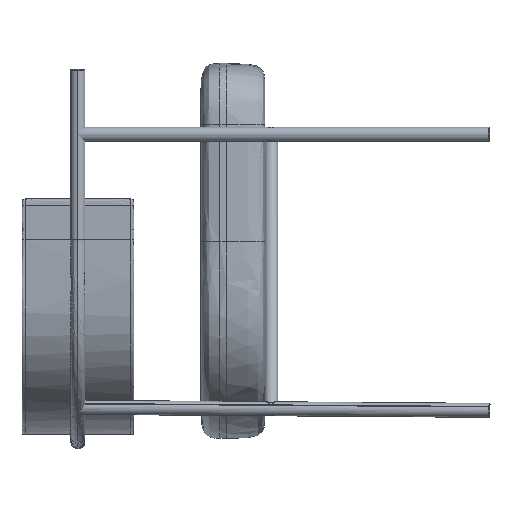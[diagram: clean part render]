
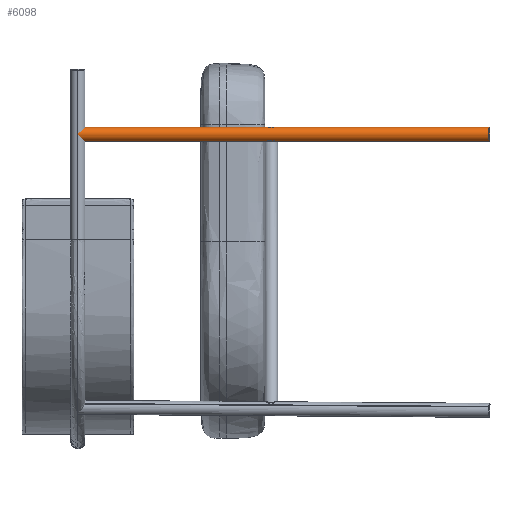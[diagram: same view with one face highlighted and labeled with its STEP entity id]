
A CAD part, left-side view. The second image highlights one B-rep face of the part: STEP entity #6098.
In plain terms, the highlighted cylindrical face has radius 11 mm (diameter 22 mm), a partial arc.
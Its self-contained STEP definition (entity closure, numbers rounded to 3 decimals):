
#310 = CIRCLE ( 'NONE', #7189, 11. ) ;
#736 = CARTESIAN_POINT ( 'NONE',  ( 0., 0., -11. ) ) ;
#1404 = CARTESIAN_POINT ( 'NONE',  ( 0., 642.5, 0. ) ) ;
#1885 = DIRECTION ( 'NONE',  ( 0., 0., 1. ) ) ;
#1986 = FACE_OUTER_BOUND ( 'NONE', #9983, .T. ) ;
#2223 = LINE ( 'NONE', #10097, #12805 ) ;
#2723 = CARTESIAN_POINT ( 'NONE',  ( 0., 0., 0. ) ) ;
#2791 = VERTEX_POINT ( 'NONE', #7461 ) ;
#3449 = VERTEX_POINT ( 'NONE', #11662 ) ;
#3759 = EDGE_CURVE ( 'NONE', #2791, #3449, #2223, .T. ) ;
#4075 = AXIS2_PLACEMENT_3D ( 'NONE', #11890, #9909, #7297 ) ;
#4099 = DIRECTION ( 'NONE',  ( 0., -1., 0. ) ) ;
#6063 = LINE ( 'NONE', #11925, #9968 ) ;
#6098 = ADVANCED_FACE ( 'NONE', ( #1986 ), #7880, .T. ) ;
#6545 = DIRECTION ( 'NONE',  ( 0., 0., 1. ) ) ;
#6696 = DIRECTION ( 'NONE',  ( 0., 1., 0. ) ) ;
#7189 = AXIS2_PLACEMENT_3D ( 'NONE', #2723, #6696, #1885 ) ;
#7228 = EDGE_CURVE ( 'NONE', #12846, #3449, #310, .T. ) ;
#7297 = DIRECTION ( 'NONE',  ( 0., 0., -1. ) ) ;
#7381 = CARTESIAN_POINT ( 'NONE',  ( 0., 642.5, -11. ) ) ;
#7461 = CARTESIAN_POINT ( 'NONE',  ( 0., 642.5, 11. ) ) ;
#7481 = ORIENTED_EDGE ( 'NONE', *, *, #7228, .T. ) ;
#7880 = CYLINDRICAL_SURFACE ( 'NONE', #4075, 11. ) ;
#9909 = DIRECTION ( 'NONE',  ( 0., -1., 0. ) ) ;
#9968 = VECTOR ( 'NONE', #4099, 1000. ) ;
#9983 = EDGE_LOOP ( 'NONE', ( #12008, #12073, #12699, #7481 ) ) ;
#10097 = CARTESIAN_POINT ( 'NONE',  ( 0., 642.5, 11. ) ) ;
#10291 = EDGE_CURVE ( 'NONE', #12509, #12846, #6063, .T. ) ;
#10387 = DIRECTION ( 'NONE',  ( 0., 1., 0. ) ) ;
#10617 = CIRCLE ( 'NONE', #12291, 11. ) ;
#11662 = CARTESIAN_POINT ( 'NONE',  ( 0., 0., 11. ) ) ;
#11890 = CARTESIAN_POINT ( 'NONE',  ( 0., 642.5, 0. ) ) ;
#11925 = CARTESIAN_POINT ( 'NONE',  ( 0., 642.5, -11. ) ) ;
#12008 = ORIENTED_EDGE ( 'NONE', *, *, #3759, .F. ) ;
#12073 = ORIENTED_EDGE ( 'NONE', *, *, #12622, .F. ) ;
#12291 = AXIS2_PLACEMENT_3D ( 'NONE', #1404, #10387, #6545 ) ;
#12509 = VERTEX_POINT ( 'NONE', #7381 ) ;
#12622 = EDGE_CURVE ( 'NONE', #12509, #2791, #10617, .T. ) ;
#12699 = ORIENTED_EDGE ( 'NONE', *, *, #10291, .T. ) ;
#12805 = VECTOR ( 'NONE', #12921, 1000. ) ;
#12846 = VERTEX_POINT ( 'NONE', #736 ) ;
#12921 = DIRECTION ( 'NONE',  ( 0., -1., 0. ) ) ;
